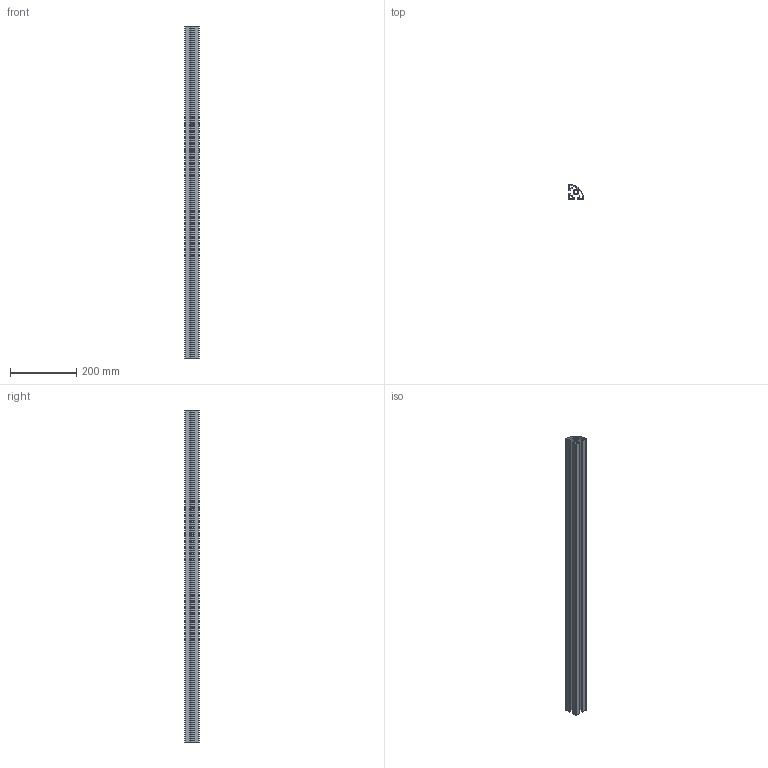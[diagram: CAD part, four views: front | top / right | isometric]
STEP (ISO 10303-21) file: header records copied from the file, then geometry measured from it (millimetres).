
FILE_DESCRIPTION (( 'STEP AP214' ), '1' );
FILE_NAME ('45R.STEP', '2017-10-12T10:53:57', ( '' ), ( '' ), 'SwSTEP 2.0', 'SolidWorks 2014', '' );
FILE_SCHEMA (( 'AUTOMOTIVE_DESIGN' ));
Length unit declared in the file: millimetre
Products named in the file (2): 45R
Bounding box: 44.92 x 44.92 x 1000 mm (x, y, z)
Volume: 467973.8 mm3; surface area: 519055.6 mm2
Topology: 1 solids, 1 shells, 102 faces, 300 edges, 200 vertices
Faces by surface type: plane 70, cylinder 32
Entity records: 3453 total; most frequent: CARTESIAN_POINT 604, ORIENTED_EDGE 600, DIRECTION 572, EDGE_CURVE 300, LINE 236, VECTOR 236, VERTEX_POINT 200, AXIS2_PLACEMENT_3D 168
